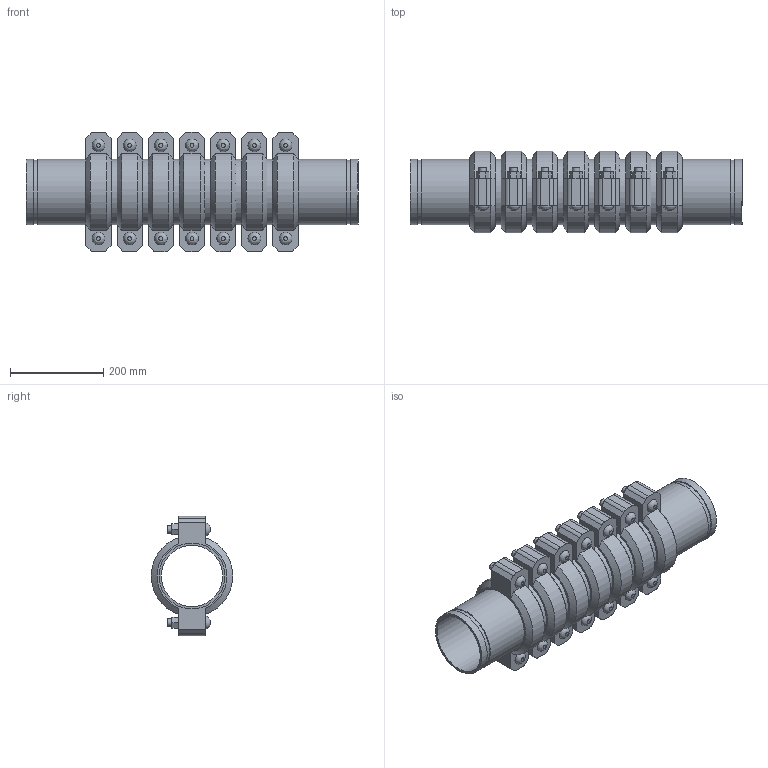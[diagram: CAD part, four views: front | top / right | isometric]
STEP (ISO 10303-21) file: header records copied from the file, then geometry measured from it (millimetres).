
FILE_DESCRIPTION(/* description */ ('VIC EXPANSION JOINT 7 COUPLINGS EXPANDED STYLE 155 (OGS)','CAx-IF Rec.Pracs.---Representation and Presentation of Product Manufacturing Information (PMI)---4.0---2014-10-13'),/* implementation_level */ '2;1');
FILE_NAME(/* name */ 'C:\Users\kkamble\AppData\Roaming\Autodesk\ApplicationPlugins\Victaulic.Temp\A179\Victaulic_IPS_Expansion Joint_Expanded_7 Couplings_Style 155 (OGS)_5 (125).stp',/* time_stamp */ '2021-06-27T00:07:02+02:00',/* author */ ('kkamble'),/* organization */ ('Victaulic'),/* preprocessor_version */ 'ST-DEVELOPER v17.2',/* originating_system */ 'Autodesk Inventor 2019',/* authorisation */ '');
FILE_SCHEMA (('AP242_MANAGED_MODEL_BASED_3D_ENGINEERING_MIM_LF { 1 0 10303 442 1 1 4 }'));
Length unit declared in the file: inch
Products named in the file (4): 155-05.0; Nipple-05.0; Nipple-05.0_1; 075-05.0
Assembly tree (15 placements, depth 2):
  155-05.0
    Nipple-05.0  x2
    Nipple-05.0_1  x6
    075-05.0  x7
Bounding box: 711.2 x 174.16 x 255.78 mm (x, y, z)
Volume: 6090337 mm3; surface area: 1361557.5 mm2
Topology: 15 solids, 29 shells, 495 faces, 1171 edges, 822 vertices
Faces by surface type: plane 300, cylinder 153, cone 28, bspline 14
Full cylindrical faces by diameter (mm): 15.875 x28, 17.424 x14, 130.988 x8, 134.95 x7, 137.033 x16, 141.3 x38
Entity records: 2833 total; most frequent: CARTESIAN_POINT 499, DIRECTION 473, ORIENTED_EDGE 386, EDGE_CURVE 193, AXIS2_PLACEMENT_3D 190, VERTEX_POINT 138, EDGE_LOOP 107, LINE 93
